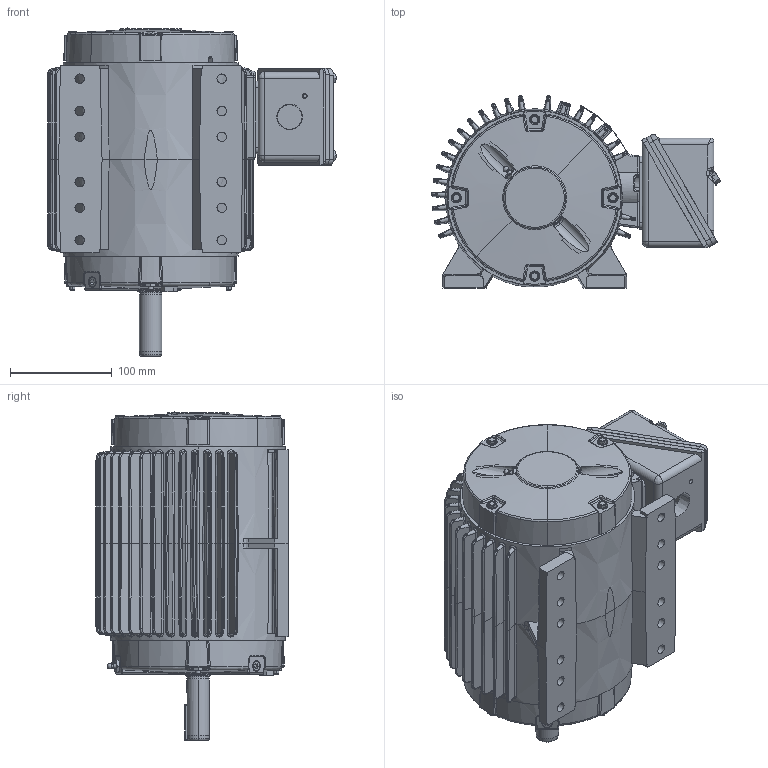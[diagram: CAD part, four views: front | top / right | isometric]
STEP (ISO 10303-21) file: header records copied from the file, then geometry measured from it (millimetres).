
FILE_DESCRIPTION (( 'STEP AP203' ), '1' );
FILE_NAME ('OL56100504-001_RevA.STEP', '2018-07-26T11:50:17', ( '' ), ( '' ), 'SwSTEP 2.0', 'SolidWorks 2015', '' );
FILE_SCHEMA (( 'CONFIG_CONTROL_DESIGN' ));
Products named in the file (1): OL56100504-001_RevA
Bounding box: 283.9 x 188.99 x 322.96 mm (x, y, z)
Volume: 2529679.2 mm3; surface area: 758287.5 mm2
Topology: 40 solids, 40 shells, 3238 faces, 8027 edges, 4765 vertices
Faces by surface type: bspline 963, cylinder 786, plane 734, cone 360, torus 296, sphere 99
Entity records: 134617 total; most frequent: CARTESIAN_POINT 66960, ORIENTED_EDGE 15700, DIRECTION 12438, EDGE_CURVE 7850, AXIS2_PLACEMENT_3D 5192, VERTEX_POINT 4741, EDGE_LOOP 3403, ADVANCED_FACE 3238
